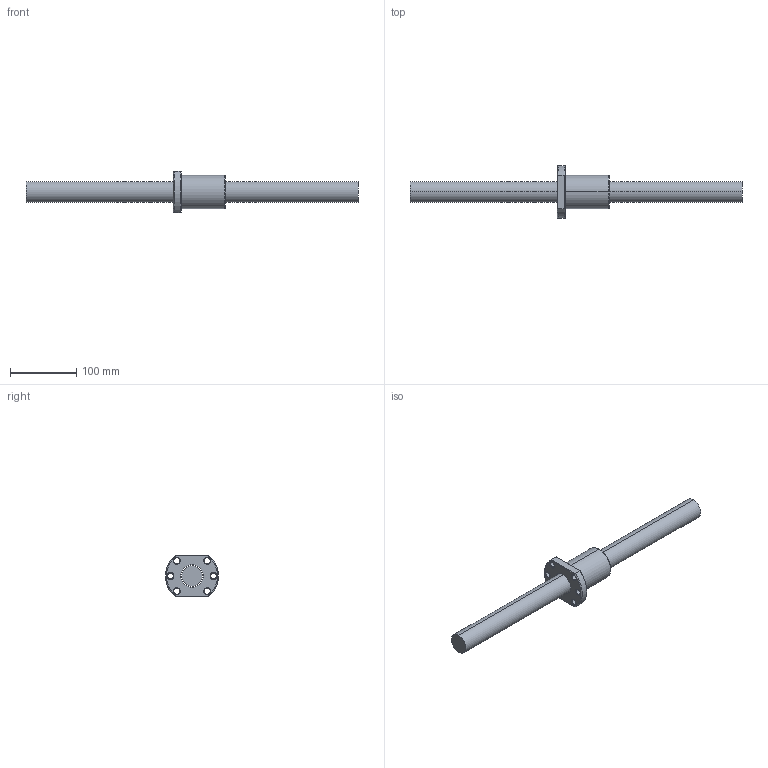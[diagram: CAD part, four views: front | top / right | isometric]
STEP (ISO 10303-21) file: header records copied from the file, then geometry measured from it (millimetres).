
FILE_DESCRIPTION (( 'STEP AP203' ), '1' );
FILE_NAME ('SFA3232-1.8.STEP', '2024-08-13T02:02:32', ( '' ), ( '' ), 'SwSTEP 2.0', 'SolidWorks 2022', '' );
FILE_SCHEMA (( 'CONFIG_CONTROL_DESIGN' ));
Length unit declared in the file: millimetre
Products named in the file (1): SFA3232-1.8
Bounding box: 500 x 79.74 x 62 mm (x, y, z)
Volume: 484823.8 mm3; surface area: 79859.7 mm2
Topology: 2 solids, 2 shells, 85 faces, 218 edges, 138 vertices
Faces by surface type: cylinder 35, cone 26, plane 12, bspline 6, torus 6
Entity records: 5520 total; most frequent: CARTESIAN_POINT 3441, ORIENTED_EDGE 436, DIRECTION 403, EDGE_CURVE 218, AXIS2_PLACEMENT_3D 164, VERTEX_POINT 138, EDGE_LOOP 102, ADVANCED_FACE 85
